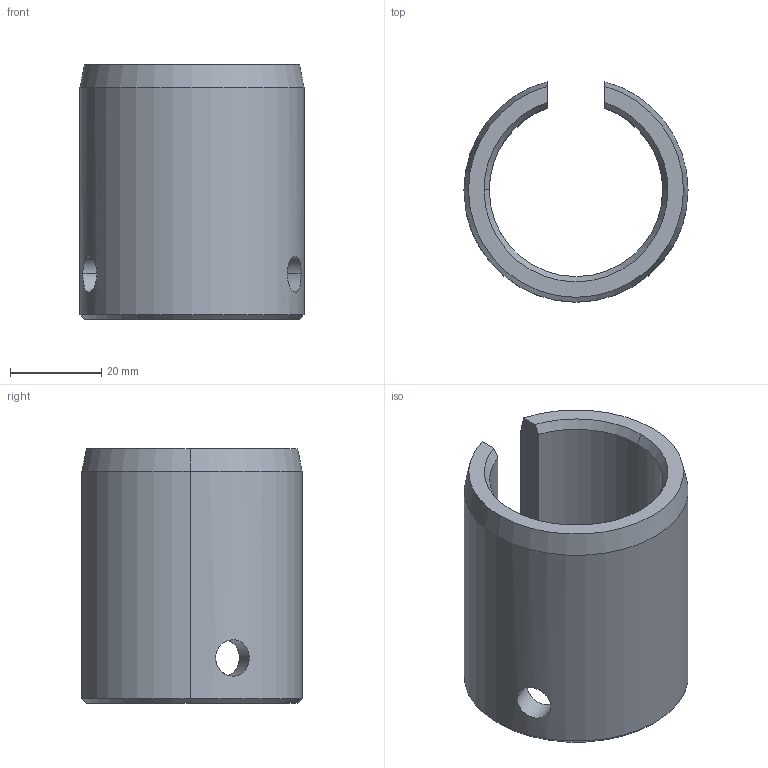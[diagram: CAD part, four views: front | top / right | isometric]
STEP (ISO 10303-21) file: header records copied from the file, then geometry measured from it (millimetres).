
FILE_DESCRIPTION (( 'STEP AP203' ), '1' );
FILE_NAME ('KBSH066P24.STEP', '2023-08-01T05:22:51', ( '' ), ( '' ), 'SwSTEP 2.0', 'SolidWorks 2017', '' );
FILE_SCHEMA (( 'CONFIG_CONTROL_DESIGN' ));
Length unit declared in the file: millimetre
Products named in the file (1): KBSH066P24
Bounding box: 49.21 x 48.38 x 56 mm (x, y, z)
Volume: 37431.5 mm3; surface area: 15619.8 mm2
Topology: 1 solids, 1 shells, 26 faces, 64 edges, 40 vertices
Faces by surface type: cone 12, cylinder 10, plane 4
Entity records: 1109 total; most frequent: CARTESIAN_POINT 419, ORIENTED_EDGE 128, DIRECTION 126, EDGE_CURVE 64, AXIS2_PLACEMENT_3D 51, VERTEX_POINT 40, EDGE_LOOP 30, FACE_OUTER_BOUND 26
